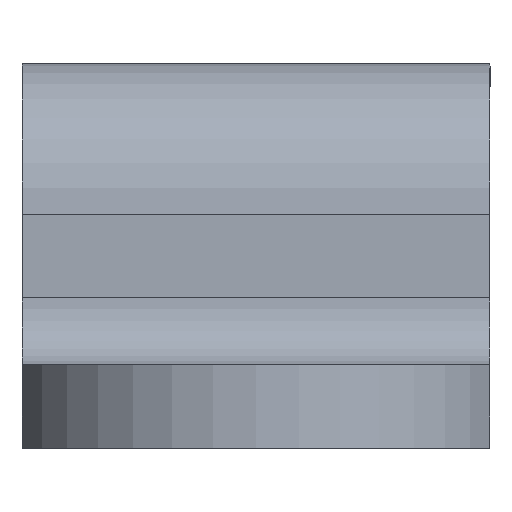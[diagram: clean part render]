
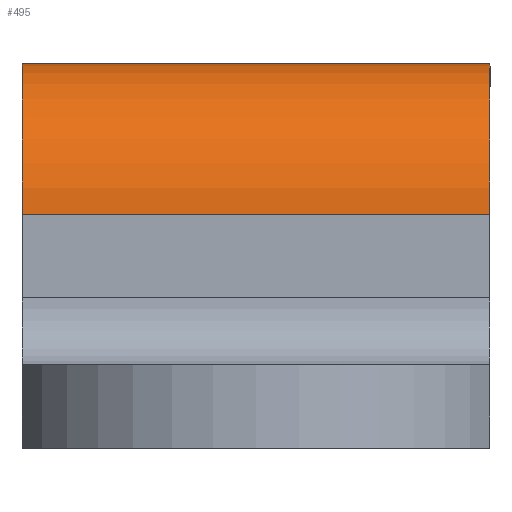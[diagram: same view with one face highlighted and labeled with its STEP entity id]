
A CAD part, left-side view. The second image highlights one B-rep face of the part: STEP entity #495.
In plain terms, the highlighted cylindrical face has radius 4.5 mm (diameter 9 mm), a partial arc.
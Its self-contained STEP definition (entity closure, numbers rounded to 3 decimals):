
#47=FACE_OUTER_BOUND('',#74,.T.);
#74=EDGE_LOOP('',(#421,#422,#423,#424));
#100=LINE('',#783,#144);
#122=LINE('',#847,#166);
#144=VECTOR('',#622,14.);
#166=VECTOR('',#692,14.);
#174=CIRCLE('',#510,4.5);
#190=CIRCLE('',#533,4.5);
#205=VERTEX_POINT('',#728);
#206=VERTEX_POINT('',#730);
#228=VERTEX_POINT('',#782);
#233=VERTEX_POINT('',#798);
#254=EDGE_CURVE('',#206,#205,#174,.T.);
#280=EDGE_CURVE('',#206,#228,#100,.T.);
#288=EDGE_CURVE('',#233,#228,#190,.T.);
#313=EDGE_CURVE('',#233,#205,#122,.T.);
#421=ORIENTED_EDGE('',*,*,#288,.T.);
#422=ORIENTED_EDGE('',*,*,#280,.F.);
#423=ORIENTED_EDGE('',*,*,#254,.T.);
#424=ORIENTED_EDGE('',*,*,#313,.F.);
#472=CYLINDRICAL_SURFACE('',#550,4.5);
#495=ADVANCED_FACE('',(#47),#472,.T.);
#510=AXIS2_PLACEMENT_3D('',#731,#575,#576);
#533=AXIS2_PLACEMENT_3D('',#799,#639,#640);
#550=AXIS2_PLACEMENT_3D('',#846,#690,#691);
#575=DIRECTION('center_axis',(0.,-1.,0.));
#576=DIRECTION('ref_axis',(-1.,0.,0.));
#622=DIRECTION('',(0.,-1.,0.));
#639=DIRECTION('center_axis',(0.,1.,0.));
#640=DIRECTION('ref_axis',(-1.,0.,0.));
#690=DIRECTION('center_axis',(0.,1.,0.));
#691=DIRECTION('ref_axis',(-1.,0.,0.));
#692=DIRECTION('',(0.,1.,0.));
#728=CARTESIAN_POINT('',(8.5,7.,7.));
#730=CARTESIAN_POINT('',(13.,7.,11.5));
#731=CARTESIAN_POINT('Origin',(13.,7.,7.));
#782=CARTESIAN_POINT('',(13.,-7.,11.5));
#783=CARTESIAN_POINT('',(13.,3.5,11.5));
#798=CARTESIAN_POINT('',(8.5,-7.,7.));
#799=CARTESIAN_POINT('Origin',(13.,-7.,7.));
#846=CARTESIAN_POINT('Origin',(13.,0.,7.));
#847=CARTESIAN_POINT('',(8.5,-3.5,7.));
